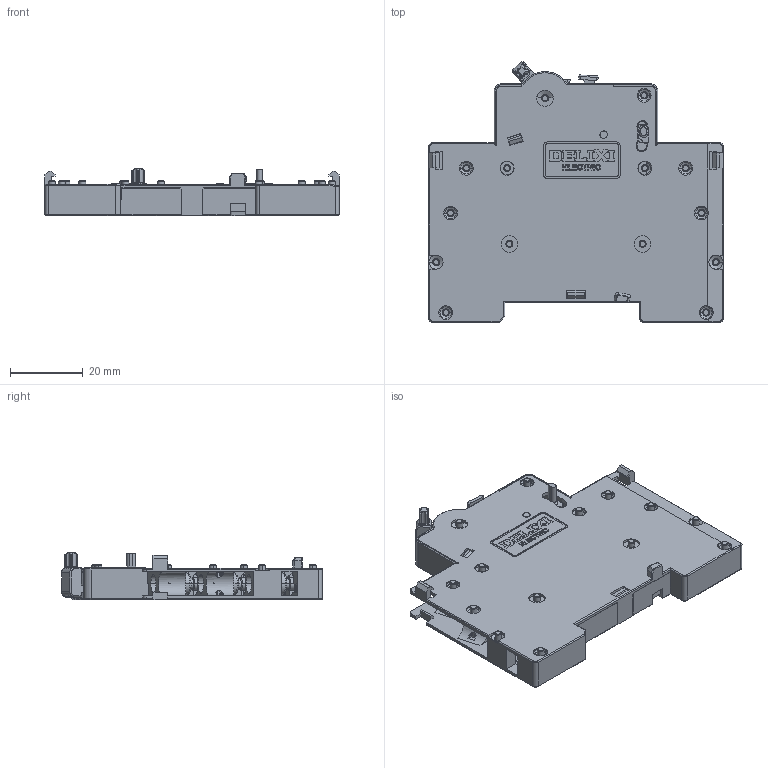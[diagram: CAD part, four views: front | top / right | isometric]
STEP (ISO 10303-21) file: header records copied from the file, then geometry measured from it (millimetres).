
FILE_DESCRIPTION((''),'2;1');
FILE_NAME('2297007000_SW0001','2023-11-08T',('dufeng.zhai'),(''),'PRO/ENGINEER BY PARAMETRIC TECHNOLOGY CORPORATION, 2015440','PRO/ENGINEER BY PARAMETRIC TECHNOLOGY CORPORATION, 2015440','');
FILE_SCHEMA(('CONFIG_CONTROL_DESIGN'));
Products named in the file (1): 2297007000_SW0001
Bounding box: 80.8 x 71.56 x 12.95 mm (x, y, z)
Volume: 29358.4 mm3; surface area: 23539.1 mm2
Topology: 1 solids, 1 shells, 2381 faces, 6588 edges, 4236 vertices
Faces by surface type: plane 1551, cylinder 482, cone 147, torus 96, bspline 60, extrusion 43, sphere 2
Entity records: 80512 total; most frequent: CARTESIAN_POINT 20472, ORIENTED_EDGE 13170, DIRECTION 11546, EDGE_CURVE 6585, VECTOR 4648, LINE 4605, VERTEX_POINT 4236, AXIS2_PLACEMENT_3D 3449
